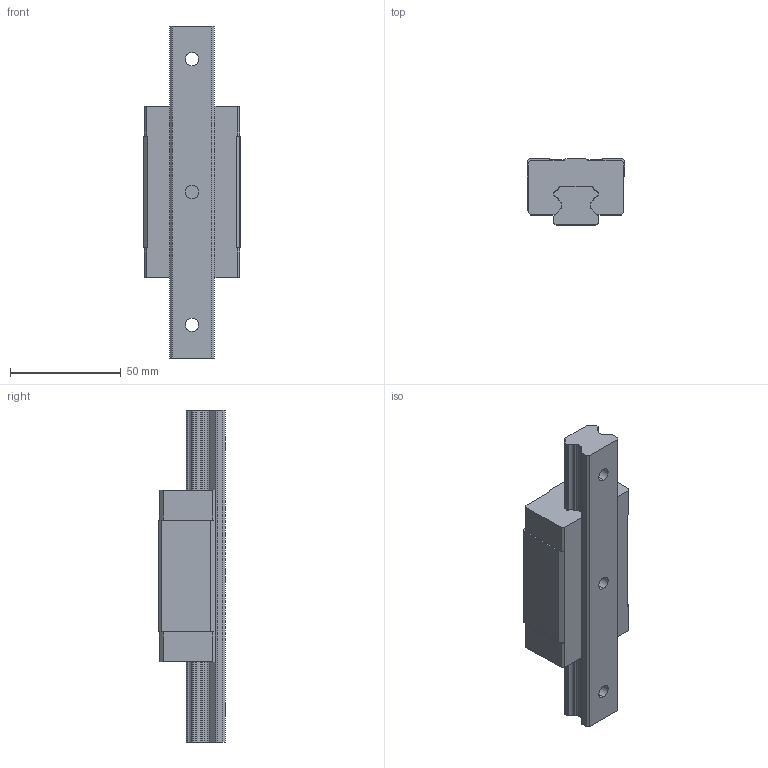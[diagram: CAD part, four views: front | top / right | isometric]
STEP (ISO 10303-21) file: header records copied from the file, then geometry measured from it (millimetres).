
FILE_DESCRIPTION (( 'STEP AP214' ), '1' );
FILE_NAME ('2.1017 Lineaarikelkka HGH20CA.STEP', '2025-09-19T06:25:51', ( '' ), ( '' ), 'SwSTEP 2.0', 'SolidWorks 2025', '' );
FILE_SCHEMA (( 'AUTOMOTIVE_DESIGN' ));
Length unit declared in the file: millimetre
Products named in the file (1): 2.1017 Lineaarikelkka HGH20CA
Bounding box: 44 x 30 x 150 mm (x, y, z)
Volume: 109564.8 mm3; surface area: 28075.6 mm2
Topology: 2 solids, 2 shells, 167 faces, 456 edges, 300 vertices
Faces by surface type: plane 101, cylinder 66
Entity records: 7171 total; most frequent: DIRECTION 928, CARTESIAN_POINT 924, ORIENTED_EDGE 912, EDGE_CURVE 456, VECTOR 320, LINE 320, AXIS2_PLACEMENT_3D 304, VERTEX_POINT 300
